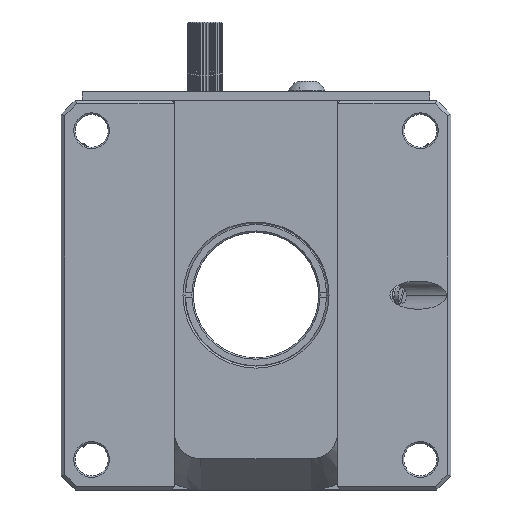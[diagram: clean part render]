
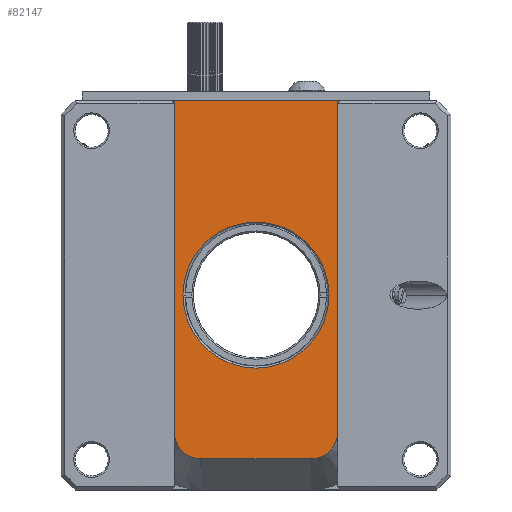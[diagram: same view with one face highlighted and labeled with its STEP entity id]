
A CAD part, top view. The second image highlights one B-rep face of the part: STEP entity #82147.
In plain terms, the highlighted planar face has unit normal (0, 0, 1).
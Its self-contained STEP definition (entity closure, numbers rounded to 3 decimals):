
#75939=DIRECTION('',(1.,0.,0.));
#75940=VECTOR('',#75939,29.769);
#75941=CARTESIAN_POINT('',(-16.746,31.409,
11.74));
#75942=LINE('',#75941,#75940);
#75979=CARTESIAN_POINT('',(8.248,-29.221,
11.74));
#75980=DIRECTION('',(0.,0.,1.));
#75981=DIRECTION('',(0.,-1.,0.));
#75982=AXIS2_PLACEMENT_3D('',#75979,#75980,#75981);
#75984=CARTESIAN_POINT('',(-11.971,-29.221,
11.74));
#75985=DIRECTION('',(0.,0.,1.));
#75986=DIRECTION('',(-1.,0.,0.));
#75987=AXIS2_PLACEMENT_3D('',#75984,#75985,#75986);
#75989=CARTESIAN_POINT('',(-1.861,-4.151,
11.74));
#75990=DIRECTION('',(0.,0.,-1.));
#75991=DIRECTION('',(1.,0.,0.));
#75992=AXIS2_PLACEMENT_3D('',#75989,#75990,#75991);
#75994=CARTESIAN_POINT('',(-1.861,-4.151,
11.74));
#75995=DIRECTION('',(0.,0.,-1.));
#75996=DIRECTION('',(-1.,0.,0.));
#75997=AXIS2_PLACEMENT_3D('',#75994,#75995,#75996);
#76003=DIRECTION('',(0.,1.,0.));
#76004=VECTOR('',#76003,60.63);
#76005=CARTESIAN_POINT('',(-16.746,-29.221,
11.74));
#76006=LINE('',#76005,#76004);
#76024=DIRECTION('',(-1.,0.,0.));
#76025=VECTOR('',#76024,20.218);
#76026=CARTESIAN_POINT('',(8.248,-33.996,
11.74));
#76027=LINE('',#76026,#76025);
#76041=DIRECTION('',(0.,-1.,0.));
#76042=VECTOR('',#76041,60.63);
#76043=CARTESIAN_POINT('',(13.023,31.409,11.74));
#76044=LINE('',#76043,#76042);
#78367=CARTESIAN_POINT('',(-16.746,31.409,
11.74));
#78368=CARTESIAN_POINT('',(13.023,31.409,11.74));
#78369=VERTEX_POINT('',#78367);
#78370=VERTEX_POINT('',#78368);
#78383=CARTESIAN_POINT('',(13.023,-29.221,
11.74));
#78384=VERTEX_POINT('',#78383);
#78397=CARTESIAN_POINT('',(8.248,-33.996,
11.74));
#78398=VERTEX_POINT('',#78397);
#78399=CARTESIAN_POINT('',(-11.97,-33.996,
11.74));
#78400=VERTEX_POINT('',#78399);
#78401=CARTESIAN_POINT('',(-16.746,-29.221,
11.74));
#78402=VERTEX_POINT('',#78401);
#78403=CARTESIAN_POINT('',(11.466,-4.151,
11.74));
#78404=CARTESIAN_POINT('',(-15.188,-4.151,
11.74));
#78405=VERTEX_POINT('',#78403);
#78406=VERTEX_POINT('',#78404);
#82123=CARTESIAN_POINT('',(8.248,-29.221,
11.74));
#82124=DIRECTION('',(0.,0.,1.));
#82125=DIRECTION('',(1.,0.,0.));
#82126=AXIS2_PLACEMENT_3D('',#82123,#82124,#82125);
#82127=PLANE('',#82126);
#82129=ORIENTED_EDGE('',*,*,#82128,.T.);
#82130=ORIENTED_EDGE('',*,*,#82098,.T.);
#82132=ORIENTED_EDGE('',*,*,#82131,.T.);
#82134=ORIENTED_EDGE('',*,*,#82133,.F.);
#82136=ORIENTED_EDGE('',*,*,#82135,.T.);
#82138=ORIENTED_EDGE('',*,*,#82137,.F.);
#82139=EDGE_LOOP('',(#82129,#82130,#82132,#82134,#82136,#82138));
#82140=FACE_OUTER_BOUND('',#82139,.F.);
#82142=ORIENTED_EDGE('',*,*,#82141,.F.);
#82144=ORIENTED_EDGE('',*,*,#82143,.F.);
#82145=EDGE_LOOP('',(#82142,#82144));
#82146=FACE_BOUND('',#82145,.F.);
#82147=ADVANCED_FACE('',(#82140,#82146),#82127,.T.);
#75983=CIRCLE('',#75982,4.775);
#75988=CIRCLE('',#75987,4.775);
#75993=CIRCLE('',#75992,13.327);
#75998=CIRCLE('',#75997,13.327);
#82098=EDGE_CURVE('',#78369,#78370,#75942,.T.);
#82128=EDGE_CURVE('',#78402,#78369,#76006,.T.);
#82131=EDGE_CURVE('',#78370,#78384,#76044,.T.);
#82133=EDGE_CURVE('',#78398,#78384,#75983,.T.);
#82135=EDGE_CURVE('',#78398,#78400,#76027,.T.);
#82137=EDGE_CURVE('',#78402,#78400,#75988,.T.);
#82141=EDGE_CURVE('',#78405,#78406,#75993,.T.);
#82143=EDGE_CURVE('',#78406,#78405,#75998,.T.);
